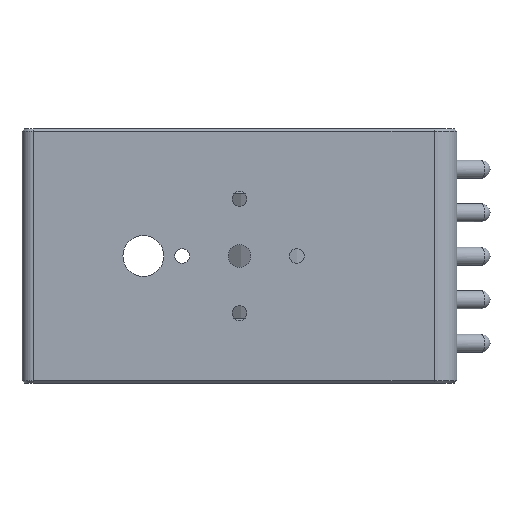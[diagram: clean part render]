
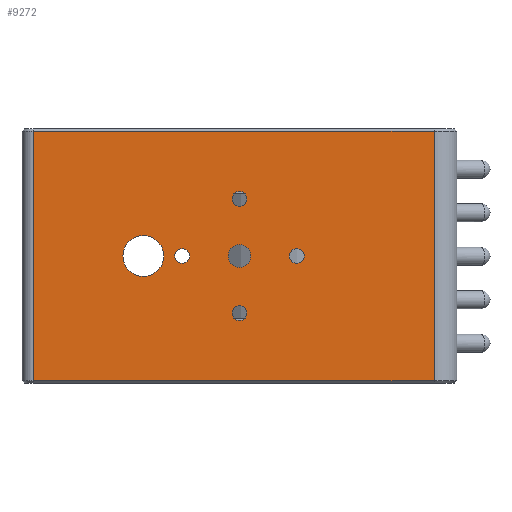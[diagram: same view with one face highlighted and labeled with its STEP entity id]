
A CAD part, front view. The second image highlights one B-rep face of the part: STEP entity #9272.
In plain terms, the highlighted planar face has unit normal (0, -1, 0).
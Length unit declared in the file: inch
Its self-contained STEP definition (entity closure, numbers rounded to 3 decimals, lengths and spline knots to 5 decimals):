
#761=LINE($,#21994,#1325);
#1001=LINE($,#23745,#1565);
#1017=LINE($,#23839,#1581);
#1018=LINE($,#23841,#1582);
#1325=VECTOR($,#11235,3.44488);
#1565=VECTOR($,#11701,3.44488);
#1581=VECTOR($,#11817,2.14567);
#1582=VECTOR($,#11820,2.14567);
#1976=PLANE($,#9979);
#2259=FACE_BOUND($,#3542,.T.);
#2260=FACE_BOUND($,#3543,.T.);
#2261=FACE_BOUND($,#3544,.T.);
#2262=FACE_BOUND($,#3545,.T.);
#2263=FACE_BOUND($,#3546,.T.);
#2264=FACE_BOUND($,#3547,.T.);
#2265=FACE_BOUND($,#3548,.T.);
#3542=EDGE_LOOP($,(#8220));
#3543=EDGE_LOOP($,(#8221));
#3544=EDGE_LOOP($,(#8222));
#3545=EDGE_LOOP($,(#8223));
#3546=EDGE_LOOP($,(#8224));
#3547=EDGE_LOOP($,(#8225));
#3548=EDGE_LOOP($,(#8226,#8227,#8228,#8229));
#3924=CIRCLE($,#9961,0.06382);
#3926=CIRCLE($,#9964,0.06382);
#3928=CIRCLE($,#9967,0.06382);
#3930=CIRCLE($,#9970,0.06382);
#3932=CIRCLE($,#9973,0.09679);
#3934=CIRCLE($,#9976,0.17553);
#4455=VERTEX_POINT($,#21978);
#4459=VERTEX_POINT($,#21990);
#4736=VERTEX_POINT($,#23735);
#4738=VERTEX_POINT($,#23743);
#4756=VERTEX_POINT($,#23808);
#4758=VERTEX_POINT($,#23813);
#4760=VERTEX_POINT($,#23818);
#4762=VERTEX_POINT($,#23823);
#4764=VERTEX_POINT($,#23828);
#4766=VERTEX_POINT($,#23833);
#5498=EDGE_CURVE($,#4455,#4459,#761,.T.);
#5910=EDGE_CURVE($,#4738,#4736,#1001,.T.);
#5937=EDGE_CURVE($,#4756,#4756,#3924,.T.);
#5939=EDGE_CURVE($,#4758,#4758,#3926,.T.);
#5941=EDGE_CURVE($,#4760,#4760,#3928,.T.);
#5943=EDGE_CURVE($,#4762,#4762,#3930,.T.);
#5945=EDGE_CURVE($,#4764,#4764,#3932,.T.);
#5947=EDGE_CURVE($,#4766,#4766,#3934,.T.);
#5950=EDGE_CURVE($,#4455,#4736,#1017,.T.);
#5951=EDGE_CURVE($,#4459,#4738,#1018,.T.);
#8220=ORIENTED_EDGE($,*,*,#5937,.T.);
#8221=ORIENTED_EDGE($,*,*,#5939,.T.);
#8222=ORIENTED_EDGE($,*,*,#5941,.T.);
#8223=ORIENTED_EDGE($,*,*,#5943,.T.);
#8224=ORIENTED_EDGE($,*,*,#5945,.T.);
#8225=ORIENTED_EDGE($,*,*,#5947,.T.);
#8226=ORIENTED_EDGE($,*,*,#5951,.F.);
#8227=ORIENTED_EDGE($,*,*,#5498,.F.);
#8228=ORIENTED_EDGE($,*,*,#5950,.T.);
#8229=ORIENTED_EDGE($,*,*,#5910,.F.);
#9272=ADVANCED_FACE($,(#2259,#2260,#2261,#2262,#2263,#2264,#2265),#1976,
 .T.);
#9961=AXIS2_PLACEMENT_3D($,#23809,#11779,#11780);
#9964=AXIS2_PLACEMENT_3D($,#23814,#11785,#11786);
#9967=AXIS2_PLACEMENT_3D($,#23819,#11791,#11792);
#9970=AXIS2_PLACEMENT_3D($,#23824,#11797,#11798);
#9973=AXIS2_PLACEMENT_3D($,#23829,#11803,#11804);
#9976=AXIS2_PLACEMENT_3D($,#23834,#11809,#11810);
#9979=AXIS2_PLACEMENT_3D($,#23840,#11818,#11819);
#11235=DIRECTION($,(-1.,0.,0.));
#11701=DIRECTION($,(1.,0.,0.));
#11779=DIRECTION('center_axis',(0.,1.,0.));
#11780=DIRECTION('ref_axis',(1.,0.,0.));
#11785=DIRECTION('center_axis',(0.,1.,0.));
#11786=DIRECTION('ref_axis',(1.,0.,0.));
#11791=DIRECTION('center_axis',(0.,1.,0.));
#11792=DIRECTION('ref_axis',(1.,0.,0.));
#11797=DIRECTION('center_axis',(0.,1.,0.));
#11798=DIRECTION('ref_axis',(1.,0.,0.));
#11803=DIRECTION('center_axis',(0.,1.,0.));
#11804=DIRECTION('ref_axis',(1.,0.,0.));
#11809=DIRECTION('center_axis',(0.,1.,0.));
#11810=DIRECTION('ref_axis',(1.,0.,0.));
#11817=DIRECTION($,(0.,0.,1.));
#11818=DIRECTION('center_axis',(0.,-1.,0.));
#11819=DIRECTION('ref_axis',(0.,0.,-1.));
#11820=DIRECTION($,(0.,0.,1.));
#21978=CARTESIAN_POINT('',(2.92438,-0.50131,-0.1378));
#21990=CARTESIAN_POINT('',(-0.5205,-0.50131,-0.1378));
#21994=CARTESIAN_POINT($,(2.21628,-0.50131,-0.1378));
#23735=CARTESIAN_POINT('',(2.92438,-0.50131,2.00787));
#23743=CARTESIAN_POINT('',(-0.5205,-0.50131,2.00787));
#23745=CARTESIAN_POINT($,(2.21628,-0.50131,2.00787));
#23808=CARTESIAN_POINT('',(0.82285,-0.50131,0.93504));
#23809=CARTESIAN_POINT('Origin',(0.75903,-0.50131,0.93504));
#23813=CARTESIAN_POINT('',(1.31497,-0.50131,1.42717));
#23814=CARTESIAN_POINT('Origin',(1.25115,-0.50131,1.42717));
#23818=CARTESIAN_POINT('',(1.31497,-0.50131,0.44291));
#23819=CARTESIAN_POINT('Origin',(1.25115,-0.50131,0.44291));
#23823=CARTESIAN_POINT('',(1.8071,-0.50131,0.93504));
#23824=CARTESIAN_POINT('Origin',(1.74328,-0.50131,0.93504));
#23828=CARTESIAN_POINT('',(1.34795,-0.50131,0.93504));
#23829=CARTESIAN_POINT('Origin',(1.25115,-0.50131,0.93504));
#23833=CARTESIAN_POINT('',(0.59991,-0.50131,0.93504));
#23834=CARTESIAN_POINT('Origin',(0.42438,-0.50131,0.93504));
#23839=CARTESIAN_POINT($,(2.92438,-0.50131,0.));
#23840=CARTESIAN_POINT('Origin',(2.92438,-0.50131,0.));
#23841=CARTESIAN_POINT($,(-0.5205,-0.50131,0.));
